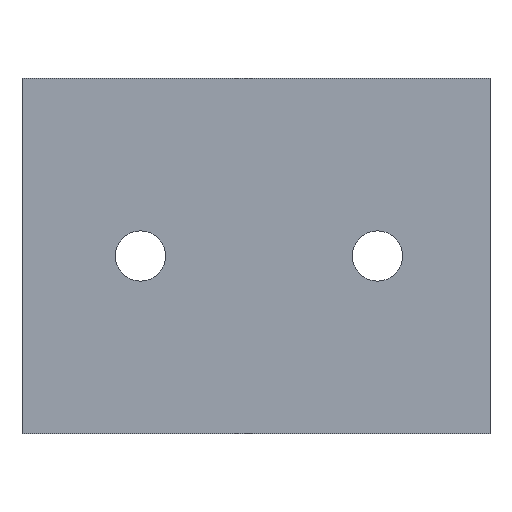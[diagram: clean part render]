
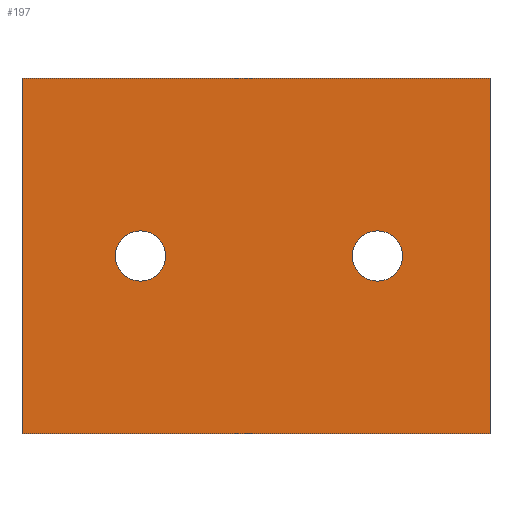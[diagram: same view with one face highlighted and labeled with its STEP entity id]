
A CAD part, front view. The second image highlights one B-rep face of the part: STEP entity #197.
In plain terms, the highlighted planar face has unit normal (0, -1, 0).
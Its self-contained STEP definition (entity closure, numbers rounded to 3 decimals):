
#22 = DIRECTION ( 'NONE',  ( 0., 0., -1. ) ) ;
#26 = VERTEX_POINT ( 'NONE', #344 ) ;
#32 = EDGE_CURVE ( 'NONE', #290, #139, #642, .T. ) ;
#35 = FACE_BOUND ( 'NONE', #504, .T. ) ;
#52 = ORIENTED_EDGE ( 'NONE', *, *, #745, .T. ) ;
#58 = DIRECTION ( 'NONE',  ( 0., 0., 1. ) ) ;
#75 = EDGE_CURVE ( 'NONE', #139, #842, #754, .T. ) ;
#80 = VECTOR ( 'NONE', #741, 1000. ) ;
#81 = DIRECTION ( 'NONE',  ( 0., 0., -1. ) ) ;
#84 = VERTEX_POINT ( 'NONE', #579 ) ;
#124 = AXIS2_PLACEMENT_3D ( 'NONE', #162, #448, #22 ) ;
#131 = CIRCLE ( 'NONE', #859, 4.25 ) ;
#135 = LINE ( 'NONE', #545, #80 ) ;
#139 = VERTEX_POINT ( 'NONE', #367 ) ;
#146 = ORIENTED_EDGE ( 'NONE', *, *, #683, .T. ) ;
#147 = ORIENTED_EDGE ( 'NONE', *, *, #562, .T. ) ;
#152 = CARTESIAN_POINT ( 'NONE',  ( 402.6, -211., 2.15 ) ) ;
#162 = CARTESIAN_POINT ( 'NONE',  ( 362.25, -211., -22.1 ) ) ;
#168 = ORIENTED_EDGE ( 'NONE', *, *, #75, .T. ) ;
#174 = CARTESIAN_POINT ( 'NONE',  ( 342.6, -211., -32.1 ) ) ;
#178 = CIRCLE ( 'NONE', #400, 4.25 ) ;
#192 = LINE ( 'NONE', #566, #380 ) ;
#197 = ADVANCED_FACE ( 'NONE', ( #35, #460, #669 ), #227, .T. ) ;
#213 = DIRECTION ( 'NONE',  ( 0., 1., 0. ) ) ;
#215 = DIRECTION ( 'NONE',  ( 0., 0., -1. ) ) ;
#220 = VERTEX_POINT ( 'NONE', #152 ) ;
#227 = PLANE ( 'NONE',  #124 ) ;
#258 = CARTESIAN_POINT ( 'NONE',  ( 362.6, -211., -2.1 ) ) ;
#265 = EDGE_LOOP ( 'NONE', ( #147, #561, #168, #822 ) ) ;
#287 = VERTEX_POINT ( 'NONE', #310 ) ;
#290 = VERTEX_POINT ( 'NONE', #667 ) ;
#291 = EDGE_LOOP ( 'NONE', ( #52, #782 ) ) ;
#292 = CARTESIAN_POINT ( 'NONE',  ( 402.6, -211., -2.1 ) ) ;
#293 = DIRECTION ( 'NONE',  ( 0., 1., 0. ) ) ;
#294 = DIRECTION ( 'NONE',  ( 0., 1., 0. ) ) ;
#297 = VECTOR ( 'NONE', #442, 1000. ) ;
#310 = CARTESIAN_POINT ( 'NONE',  ( 362.6, -211., 2.15 ) ) ;
#326 = DIRECTION ( 'NONE',  ( 0., 1., 0. ) ) ;
#344 = CARTESIAN_POINT ( 'NONE',  ( 362.6, -211., -6.35 ) ) ;
#359 = ORIENTED_EDGE ( 'NONE', *, *, #900, .T. ) ;
#362 = CARTESIAN_POINT ( 'NONE',  ( 362.6, -211., -2.1 ) ) ;
#367 = CARTESIAN_POINT ( 'NONE',  ( 342.6, -211., 27.9 ) ) ;
#380 = VECTOR ( 'NONE', #58, 1000. ) ;
#400 = AXIS2_PLACEMENT_3D ( 'NONE', #646, #213, #515 ) ;
#442 = DIRECTION ( 'NONE',  ( 0., 0., -1. ) ) ;
#448 = DIRECTION ( 'NONE',  ( 0., -1., 0. ) ) ;
#460 = FACE_BOUND ( 'NONE', #291, .T. ) ;
#504 = EDGE_LOOP ( 'NONE', ( #359, #146 ) ) ;
#515 = DIRECTION ( 'NONE',  ( 0., 0., -1. ) ) ;
#520 = AXIS2_PLACEMENT_3D ( 'NONE', #258, #326, #749 ) ;
#545 = CARTESIAN_POINT ( 'NONE',  ( 362.25, -211., -32.1 ) ) ;
#550 = CARTESIAN_POINT ( 'NONE',  ( 362.25, -211., 27.9 ) ) ;
#554 = DIRECTION ( 'NONE',  ( -1., 0., 0. ) ) ;
#556 = AXIS2_PLACEMENT_3D ( 'NONE', #362, #293, #81 ) ;
#561 = ORIENTED_EDGE ( 'NONE', *, *, #32, .T. ) ;
#562 = EDGE_CURVE ( 'NONE', #84, #290, #192, .T. ) ;
#566 = CARTESIAN_POINT ( 'NONE',  ( 421.6, -211., -22.1 ) ) ;
#579 = CARTESIAN_POINT ( 'NONE',  ( 421.6, -211., -32.1 ) ) ;
#629 = VECTOR ( 'NONE', #554, 1000. ) ;
#639 = CIRCLE ( 'NONE', #556, 4.25 ) ;
#642 = LINE ( 'NONE', #550, #629 ) ;
#646 = CARTESIAN_POINT ( 'NONE',  ( 402.6, -211., -2.1 ) ) ;
#667 = CARTESIAN_POINT ( 'NONE',  ( 421.6, -211., 27.9 ) ) ;
#668 = EDGE_CURVE ( 'NONE', #220, #797, #131, .T. ) ;
#669 = FACE_OUTER_BOUND ( 'NONE', #265, .T. ) ;
#683 = EDGE_CURVE ( 'NONE', #287, #26, #639, .T. ) ;
#741 = DIRECTION ( 'NONE',  ( 1., 0., 0. ) ) ;
#742 = CIRCLE ( 'NONE', #520, 4.25 ) ;
#745 = EDGE_CURVE ( 'NONE', #797, #220, #178, .T. ) ;
#749 = DIRECTION ( 'NONE',  ( 0., 0., -1. ) ) ;
#754 = LINE ( 'NONE', #761, #297 ) ;
#761 = CARTESIAN_POINT ( 'NONE',  ( 342.6, -211., -22.1 ) ) ;
#782 = ORIENTED_EDGE ( 'NONE', *, *, #668, .T. ) ;
#790 = CARTESIAN_POINT ( 'NONE',  ( 402.6, -211., -6.35 ) ) ;
#797 = VERTEX_POINT ( 'NONE', #790 ) ;
#822 = ORIENTED_EDGE ( 'NONE', *, *, #874, .T. ) ;
#842 = VERTEX_POINT ( 'NONE', #174 ) ;
#859 = AXIS2_PLACEMENT_3D ( 'NONE', #292, #294, #215 ) ;
#874 = EDGE_CURVE ( 'NONE', #842, #84, #135, .T. ) ;
#900 = EDGE_CURVE ( 'NONE', #26, #287, #742, .T. ) ;
